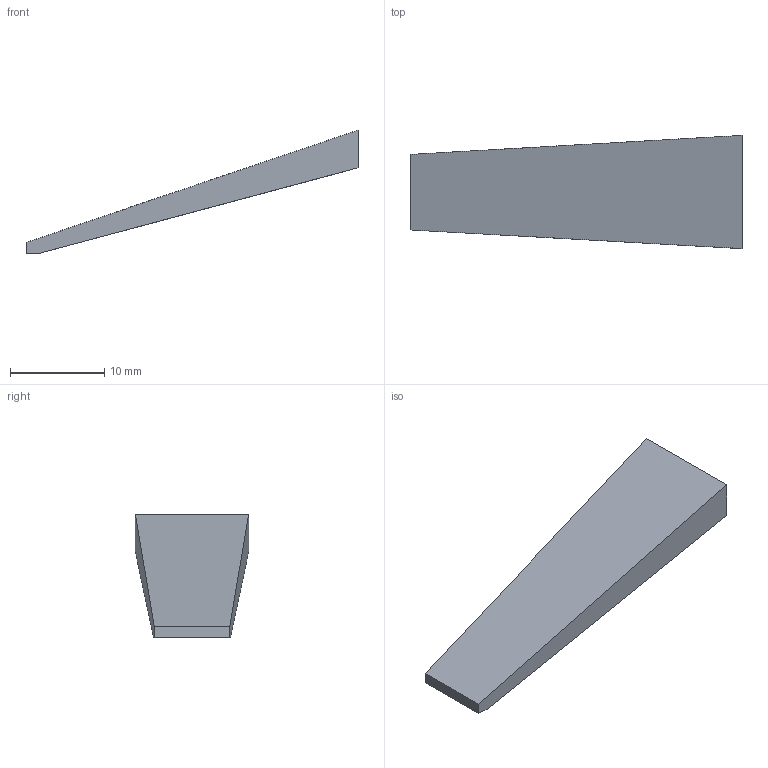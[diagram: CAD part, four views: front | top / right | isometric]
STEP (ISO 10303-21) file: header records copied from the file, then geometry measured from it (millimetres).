
FILE_DESCRIPTION(('FreeCAD Model'),'2;1');
FILE_NAME('Open CASCADE Shape Model','2025-11-16T15:04:26',(''),(''), 'Open CASCADE STEP processor 7.7','FreeCAD','Unknown');
FILE_SCHEMA(('AUTOMOTIVE_DESIGN { 1 0 10303 214 1 1 1 1 }'));
Length unit declared in the file: millimetre
Products named in the file (1): Pocket
Bounding box: 35.2 x 12 x 13.11 mm (x, y, z)
Volume: 424.1 mm3; surface area: 1176.6 mm2
Topology: 1 solids, 1 shells, 12 faces, 27 edges, 18 vertices
Faces by surface type: plane 9, bspline 3
Entity records: 796 total; most frequent: CARTESIAN_POINT 268, DIRECTION 74, ORIENTED_EDGE 54, LINE 54, VECTOR 54, PCURVE 54, DEFINITIONAL_REPRESENTATION 54, EDGE_CURVE 27
